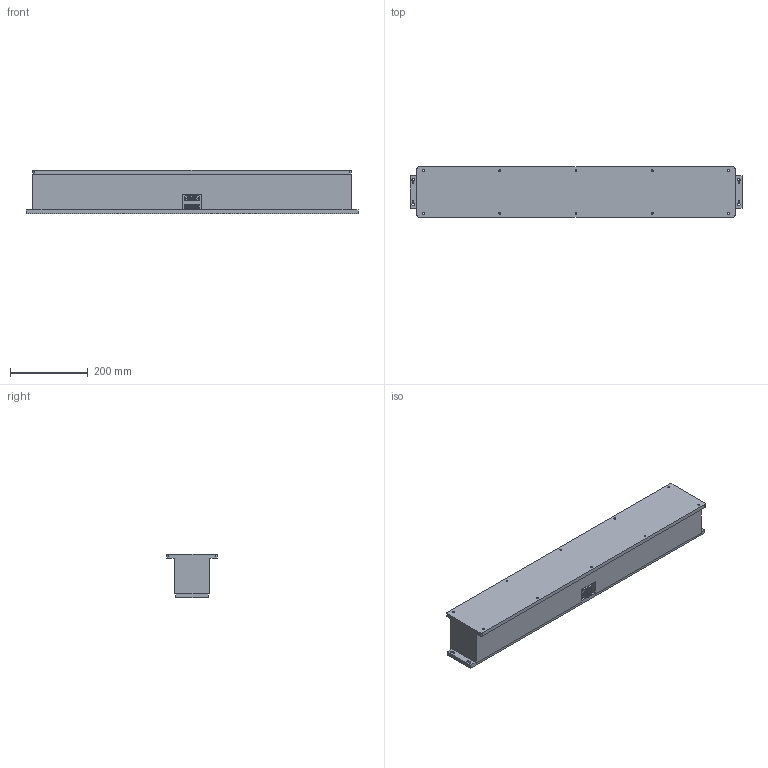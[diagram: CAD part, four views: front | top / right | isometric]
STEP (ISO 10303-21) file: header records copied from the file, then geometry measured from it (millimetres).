
FILE_DESCRIPTION(/* description */ ('Unknown'),/* implementation_level */ '2;1');
FILE_NAME(/* name */ 'AVI-200XL-LP',/* time_stamp */ '2021-02-26T14:45:38+01:00',/* author */ ('Unknown'),/* organization */ ('Unknown'),/* preprocessor_version */ 'ST-DEVELOPER v16.7',/* originating_system */ 'Solid Edge',/* authorisation */ 'Unknown');
FILE_SCHEMA (('AUTOMOTIVE_DESIGN {1 0 10303 214 3 1 1}'));
Length unit declared in the file: millimetre
Products named in the file (4): AVI-200XL-LP; AVI-200XL-LP main body; D sub 15 S female; D sub 15 P male
Assembly tree (3 placements, depth 2):
  AVI-200XL-LP
    AVI-200XL-LP main body
    D sub 15 S female
    D sub 15 P male
Bounding box: 856 x 130 x 112.5 mm (x, y, z)
Volume: 8714508.2 mm3; surface area: 437013.1 mm2
Topology: 3 solids, 3 shells, 679 faces, 1661 edges, 1066 vertices
Faces by surface type: plane 384, cylinder 228, torus 32, bspline 20, sphere 15
Full cylindrical faces by diameter (mm): 0.991 x30, 1.016 x30, 1.524 x30, 3.048 x4, 4.134 x4, 4.917 x10, 6.5 x4
Entity records: 22195 total; most frequent: CARTESIAN_POINT 4455, DIRECTION 3328, ORIENTED_EDGE 2988, EDGE_CURVE 1494, AXIS2_PLACEMENT_3D 1211, VERTEX_POINT 1026, EDGE_LOOP 928, FACE_BOUND 928
